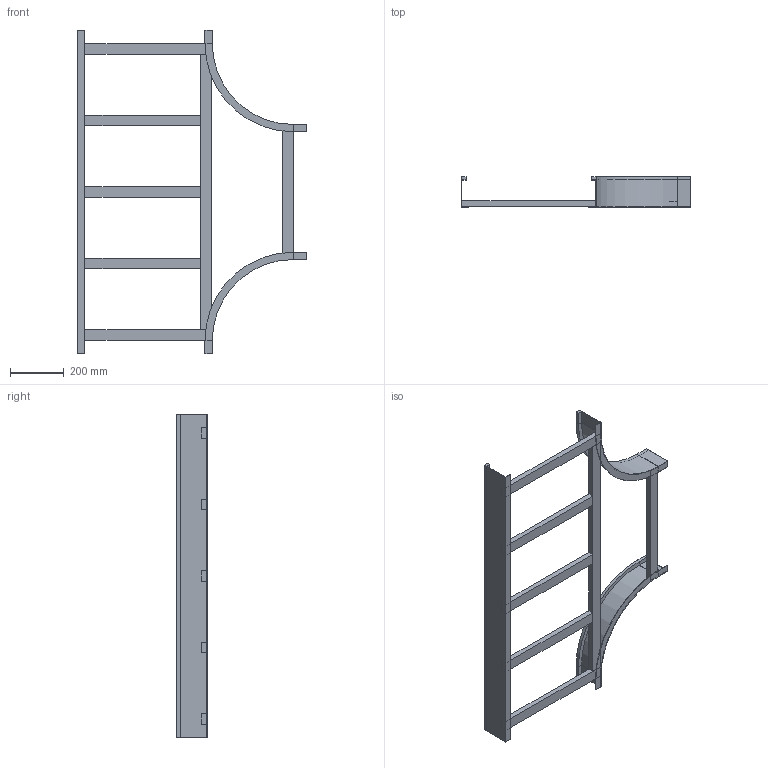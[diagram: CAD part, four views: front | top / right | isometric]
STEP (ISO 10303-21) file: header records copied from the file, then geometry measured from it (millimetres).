
FILE_DESCRIPTION (( 'STEP AP214' ), '1' );
FILE_NAME ('B2_15B3J500.step', '2025-02-21T15:52:07', ( '' ), ( '' ), 'SwSTEP 2.0', 'SolidWorks 2023', '' );
FILE_SCHEMA (( 'AUTOMOTIVE_DESIGN' ));
Length unit declared in the file: millimetre
Products named in the file (6): TRAVERSINO_500; TRAVERSINO_INTERMEDIO_R300+500; B2_TRAVERSINO_LONG._R300+500; B2_15B3J500; B2_LONGH.RETT_H112.5_R300+500; B2_LONGH.INTERNO 90°_H112.5_R300
Assembly tree (10 placements, depth 2):
  B2_15B3J500
    B2_LONGH.INTERNO 90°_H112.5_R300  x2
    B2_LONGH.RETT_H112.5_R300+500
    TRAVERSINO_500  x3
    B2_TRAVERSINO_LONG._R300+500
    TRAVERSINO_INTERMEDIO_R300+500  x3
Bounding box: 850 x 112.5 x 1200 mm (x, y, z)
Volume: 4240488.5 mm3; surface area: 1216108.7 mm2
Topology: 10 solids, 10 shells, 104 faces, 220 edges, 136 vertices
Faces by surface type: plane 96, cylinder 8
Entity records: 1647 total; most frequent: DIRECTION 258, CARTESIAN_POINT 255, ORIENTED_EDGE 232, EDGE_CURVE 116, VECTOR 108, LINE 108, AXIS2_PLACEMENT_3D 75, VERTEX_POINT 72
